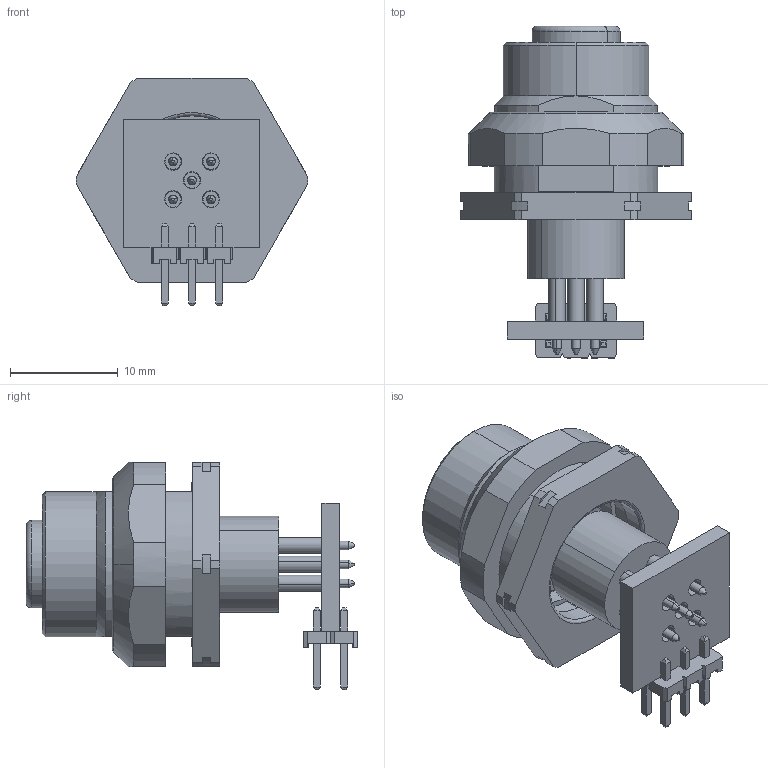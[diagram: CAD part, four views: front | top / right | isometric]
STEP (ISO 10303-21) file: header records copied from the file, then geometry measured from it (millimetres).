
FILE_DESCRIPTION (( 'STEP AP203' ), '1' );
FILE_NAME ('WFKD_4_5-PCBH.step', '2017-07-14T13:48:37', ( '' ), ( '' ), 'SwSTEP 2.0', 'SolidWorks 2015', '' );
FILE_SCHEMA (( 'CONFIG_CONTROL_DESIGN' ));
Length unit declared in the file: millimetre
Products named in the file (2): WFKD_4_5-PCBH
Bounding box: 21.5 x 30.84 x 21.16 mm (x, y, z)
Volume: 3410.6 mm3; surface area: 5335.4 mm2
Topology: 4 solids, 15 shells, 899 faces, 2398 edges, 1521 vertices
Faces by surface type: cylinder 394, plane 385, cone 71, torus 37, bspline 12
Entity records: 31292 total; most frequent: CARTESIAN_POINT 8348, DIRECTION 4889, ORIENTED_EDGE 4776, EDGE_CURVE 2388, AXIS2_PLACEMENT_3D 1864, VERTEX_POINT 1521, VECTOR 1161, LINE 1161
